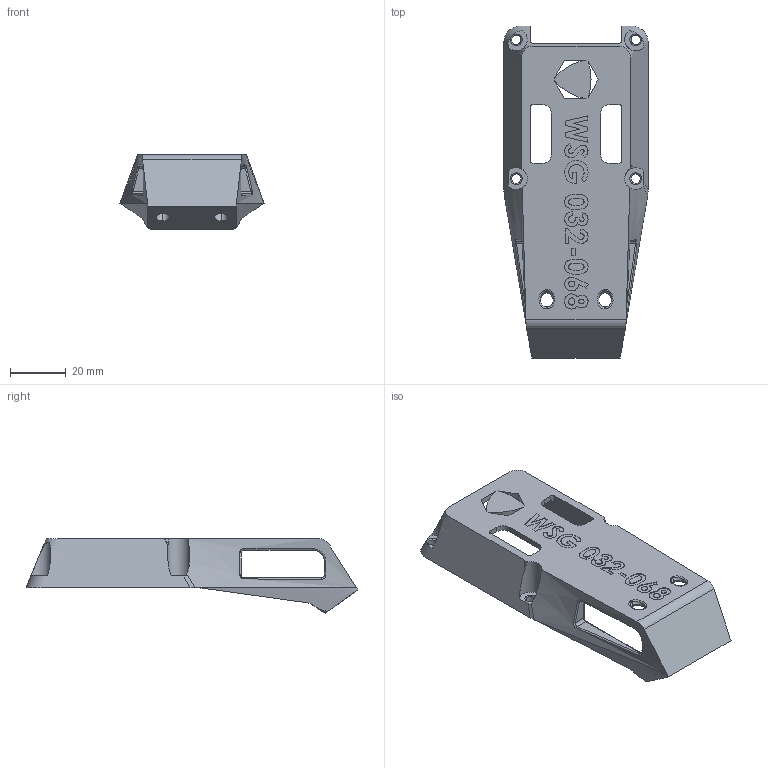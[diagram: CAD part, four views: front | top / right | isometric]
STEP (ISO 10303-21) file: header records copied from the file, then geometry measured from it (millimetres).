
FILE_DESCRIPTION (( 'STEP AP214' ), '1' );
FILE_NAME ('Gripper Finger Mount for WSG 032-068.STEP', '2023-06-07T20:55:30', ( '' ), ( '' ), 'SwSTEP 2.0', 'SolidWorks 2022', '' );
FILE_SCHEMA (( 'AUTOMOTIVE_DESIGN' ));
Length unit declared in the file: millimetre
Products named in the file (1): Gripper Finger Mount for WSG 032-068
Bounding box: 52 x 119.63 x 26.8 mm (x, y, z)
Volume: 27794.9 mm3; surface area: 18814.4 mm2
Topology: 1 solids, 1 shells, 337 faces, 899 edges, 576 vertices
Faces by surface type: bspline 134, plane 98, cylinder 77, cone 18, torus 10
Entity records: 17129 total; most frequent: CARTESIAN_POINT 9644, ORIENTED_EDGE 1794, DIRECTION 1146, EDGE_CURVE 897, VERTEX_POINT 576, LINE 388, VECTOR 388, EDGE_LOOP 381
